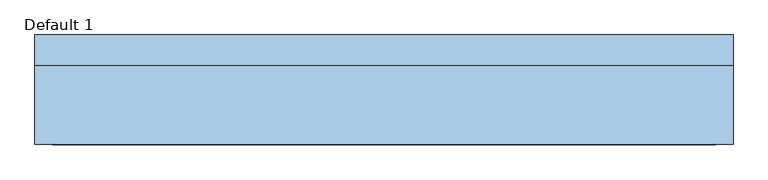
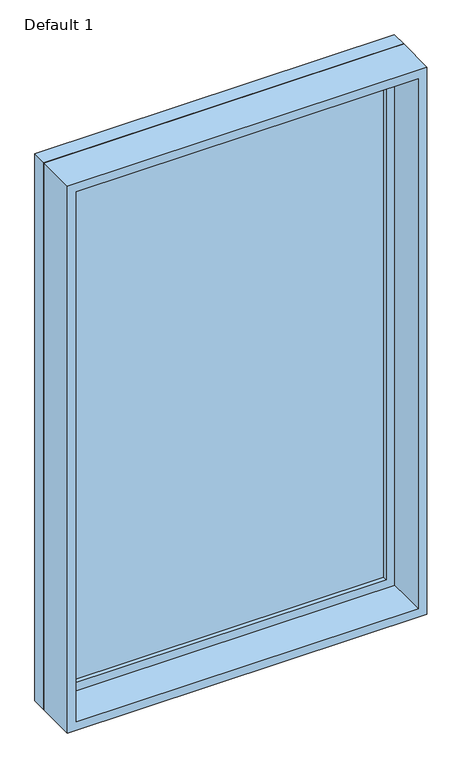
"""IFC4 building model written with IfcOpenShell, lengths in millimetres: window geometry, Planitar-Fixed : Default 1."""

from ifc_helpers import new_model, si_unit, frame, origin, place, context, project, spatial, polyline, outline, extrude, source, transform, mapped, element, save


def default_1_ff99e3d3(model_context):
    return source(origin(), model_context, "Body", "SweptSolid", [
        extrude(outline(polyline([(2978.2, -628.7), (933.4, -628.7), (933.4, 628.7), (2978.2, 628.7), (2978.2, -628.7)]), holes=[polyline([(2934.2, -584.7), (2934.2, 584.7), (977.4, 584.7), (977.4, -584.7), (2934.2, -584.7)])]), frame((0.0, 57.9, 0.0), z_axis=(0.0, 1.0, 0.0), x_axis=(0.0, 0.0, 1.0)), (0.0, 0.0, 1.0), 44.0),
        extrude(outline(polyline([(2997.2, -647.7), (914.4, -647.7), (914.4, 647.7), (2997.2, 647.7), (2997.2, -647.7)]), holes=[polyline([(2978.2, -628.7), (2978.2, 628.7), (933.4, 628.7), (933.4, -628.7), (2978.2, -628.7)])]), frame((0.0, 57.9, 0.0), z_axis=(0.0, 1.0, 0.0), x_axis=(0.0, 0.0, 1.0)), (0.0, 0.0, 1.0), 56.7),
        extrude(outline(polyline([(2997.2, -647.7), (914.4, -647.7), (914.4, 647.7), (2997.2, 647.7), (2997.2, -647.7)]), holes=[polyline([(2965.2, -615.7), (2965.2, 615.7), (946.4, 615.7), (946.4, -615.7), (2965.2, -615.7)])]), frame((0.0, -88.6, 0.0), z_axis=(0.0, 1.0, 0.0), x_axis=(0.0, 0.0, 1.0)), (0.0, 0.0, 1.0), 146.5),
        extrude(outline(polyline([(-584.7, 85.9), (584.7, 85.9), (584.7, 73.9), (-584.7, 73.9), (-584.7, 85.9)])), frame((0.0, 0.0, 977.4), z_axis=(0.0, 0.0, 1.0), x_axis=(1.0, 0.0, 0.0)), (0.0, 0.0, 1.0), 1956.8),
    ])


if __name__ == "__main__":
    model = new_model("IFC4")
    model_context = context("Model", 3, world=origin())
    ifc_project = project(units=[si_unit("LENGTHUNIT", "METRE", prefix="MILLI")], contexts=[model_context])
    site = spatial("IfcSite", under=ifc_project)
    building = spatial("IfcBuilding", under=site)
    placement = place(None, origin())
    default_1_shape = default_1_ff99e3d3(model_context)
    element("IfcWindow", 1, ObjectType="Planitar-Fixed : Default 1", at=placement, inside=building, context=model_context, shape_type="MappedRepresentation", body=[
        mapped(default_1_shape, transform((0.0, 0.0, 0.0), x_axis=(1.0, 0.0, 0.0), y_axis=(0.0, 1.0, 0.0), z_axis=(0.0, 0.0, 1.0))),
    ])
    save(model, "model.ifc")
